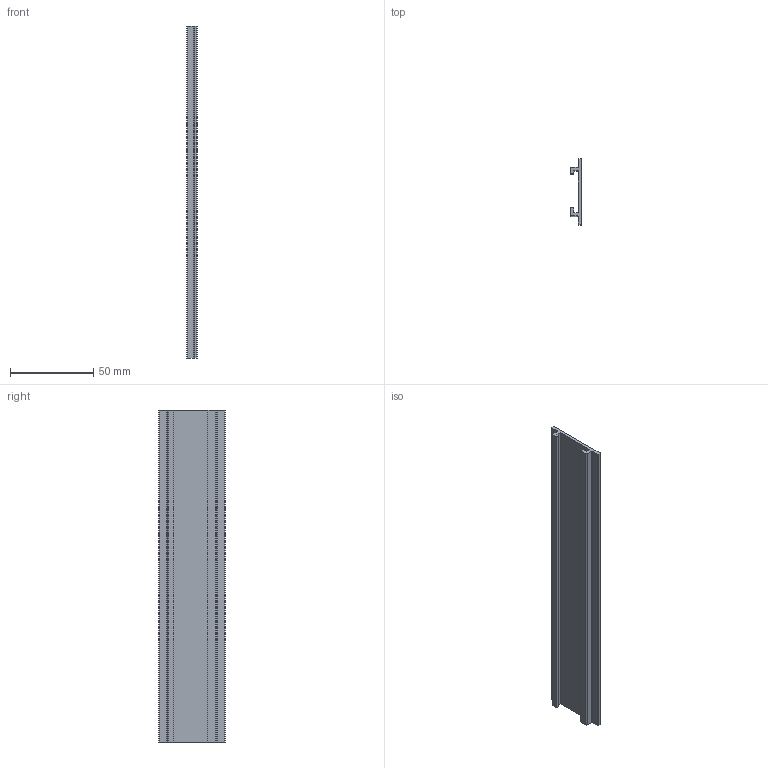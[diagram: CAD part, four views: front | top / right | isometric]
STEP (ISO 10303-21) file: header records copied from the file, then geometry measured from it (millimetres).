
FILE_DESCRIPTION((''),'2;1');
FILE_NAME('C:\Vault Klient\Projekt\Step\300-3045.stp','2009-12-04T13:30:17',('Mathias'),(''),'Autodesk Inventor 2010','Autodesk Inventor 2010','');
FILE_SCHEMA(('CONFIG_CONTROL_DESIGN'));
Length unit declared in the file: millimetre
Products named in the file (1): 300-3045-01
Bounding box: 6.6 x 40 x 200 mm (x, y, z)
Volume: 21477.1 mm3; surface area: 22191.4 mm2
Topology: 1 solids, 1 shells, 26 faces, 72 edges, 48 vertices
Faces by surface type: plane 18, cylinder 8
Entity records: 858 total; most frequent: CARTESIAN_POINT 147, ORIENTED_EDGE 144, DIRECTION 142, EDGE_CURVE 72, VECTOR 56, LINE 56, VERTEX_POINT 48, AXIS2_PLACEMENT_3D 43
